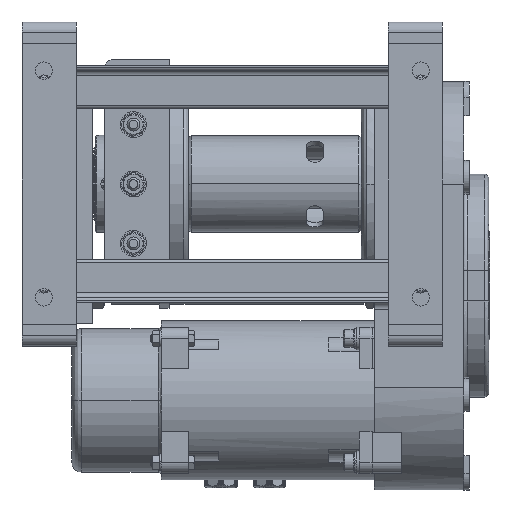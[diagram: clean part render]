
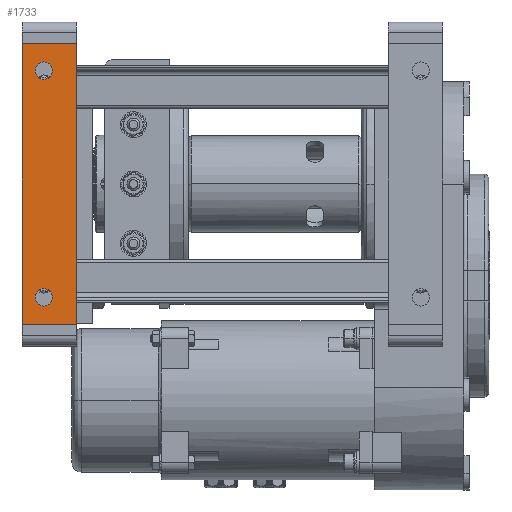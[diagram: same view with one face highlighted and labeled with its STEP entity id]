
A CAD part, front view. The second image highlights one B-rep face of the part: STEP entity #1733.
In plain terms, the highlighted planar face has unit normal (0, -1, 0).
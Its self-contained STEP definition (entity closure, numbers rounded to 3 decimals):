
#1733=ADVANCED_FACE('',(#18630,#18631,#18632),#18629,.F.);
#18629=PLANE('',#40670);
#18630=FACE_OUTER_BOUND('',#40671,.T.);
#18631=FACE_BOUND('',#40672,.T.);
#18632=FACE_BOUND('',#40673,.T.);
#40667=CARTESIAN_POINT('',(-1466.951,-1296.625,-1287.745));
#40668=DIRECTION('',(0.,1.,0.));
#40669=DIRECTION('',(0.,0.,-1.));
#40670=AXIS2_PLACEMENT_3D('',#40667,#40668,#40669);
#40671=EDGE_LOOP('',(#56350,#56351,#56352,#56353));
#40672=EDGE_LOOP('',(#56354,#56355));
#40673=EDGE_LOOP('',(#56356,#56357));
#56350=ORIENTED_EDGE('',*,*,#67140,.T.);
#56351=ORIENTED_EDGE('',*,*,#67146,.F.);
#56352=ORIENTED_EDGE('',*,*,#67137,.F.);
#56353=ORIENTED_EDGE('',*,*,#67147,.T.);
#56354=ORIENTED_EDGE('',*,*,#67148,.T.);
#56355=ORIENTED_EDGE('',*,*,#67149,.T.);
#56356=ORIENTED_EDGE('',*,*,#67150,.T.);
#56357=ORIENTED_EDGE('',*,*,#67151,.T.);
#67137=EDGE_CURVE('',#101618,#101603,#101625,.T.);
#67140=EDGE_CURVE('',#101646,#101639,#101647,.T.);
#67146=EDGE_CURVE('',#101603,#101639,#101687,.T.);
#67147=EDGE_CURVE('',#101618,#101646,#101693,.T.);
#67148=EDGE_CURVE('',#101699,#101700,#101701,.T.);
#67149=EDGE_CURVE('',#101700,#101699,#101707,.T.);
#67150=EDGE_CURVE('',#101713,#101714,#101715,.T.);
#67151=EDGE_CURVE('',#101714,#101713,#101721,.T.);
#101603=VERTEX_POINT('',#137686);
#101618=VERTEX_POINT('',#137695);
#101625=LINE('',#137699,#137700);
#101639=VERTEX_POINT('',#137707);
#101646=VERTEX_POINT('',#137711);
#101647=LINE('',#137712,#137713);
#101687=LINE('',#137736,#137737);
#101693=LINE('',#137739,#137740);
#101699=VERTEX_POINT('',#137742);
#101700=VERTEX_POINT('',#137743);
#101701=CIRCLE('',#137747,8.);
#101707=CIRCLE('',#137751,8.);
#101713=VERTEX_POINT('',#137752);
#101714=VERTEX_POINT('',#137753);
#101715=CIRCLE('',#137757,8.);
#101721=CIRCLE('',#137761,8.);
#137686=CARTESIAN_POINT('',(-1471.951,-1296.625,-1297.745));
#137695=CARTESIAN_POINT('',(-1521.951,-1296.625,-1297.745));
#137699=CARTESIAN_POINT('',(-1521.951,-1296.625,-1297.745));
#137700=VECTOR('',#137701,50.);
#137701=DIRECTION('',(1.,0.,0.));
#137707=CARTESIAN_POINT('',(-1471.951,-1296.625,-1557.745));
#137711=CARTESIAN_POINT('',(-1521.951,-1296.625,-1557.745));
#137712=CARTESIAN_POINT('',(-1521.951,-1296.625,-1557.745));
#137713=VECTOR('',#137714,50.);
#137714=DIRECTION('',(1.,0.,0.));
#137736=CARTESIAN_POINT('',(-1471.951,-1296.625,-1297.745));
#137737=VECTOR('',#137738,260.);
#137738=DIRECTION('',(0.,0.,-1.));
#137739=CARTESIAN_POINT('',(-1521.951,-1296.625,-1297.745));
#137740=VECTOR('',#137741,260.);
#137741=DIRECTION('',(0.,0.,-1.));
#137742=CARTESIAN_POINT('',(-1501.951,-1296.625,-1540.745));
#137743=CARTESIAN_POINT('',(-1501.951,-1296.625,-1524.745));
#137744=CARTESIAN_POINT('',(-1501.951,-1296.625,-1532.745));
#137745=DIRECTION('',(0.,1.,0.));
#137746=DIRECTION('',(0.,0.,-1.));
#137747=AXIS2_PLACEMENT_3D('',#137744,#137745,#137746);
#137748=CARTESIAN_POINT('',(-1501.951,-1296.625,-1532.745));
#137749=DIRECTION('',(0.,1.,0.));
#137750=DIRECTION('',(0.,0.,-1.));
#137751=AXIS2_PLACEMENT_3D('',#137748,#137749,#137750);
#137752=CARTESIAN_POINT('',(-1501.951,-1296.625,-1330.745));
#137753=CARTESIAN_POINT('',(-1501.951,-1296.625,-1314.745));
#137754=CARTESIAN_POINT('',(-1501.951,-1296.625,-1322.745));
#137755=DIRECTION('',(0.,1.,0.));
#137756=DIRECTION('',(0.,0.,-1.));
#137757=AXIS2_PLACEMENT_3D('',#137754,#137755,#137756);
#137758=CARTESIAN_POINT('',(-1501.951,-1296.625,-1322.745));
#137759=DIRECTION('',(0.,1.,0.));
#137760=DIRECTION('',(0.,0.,-1.));
#137761=AXIS2_PLACEMENT_3D('',#137758,#137759,#137760);
